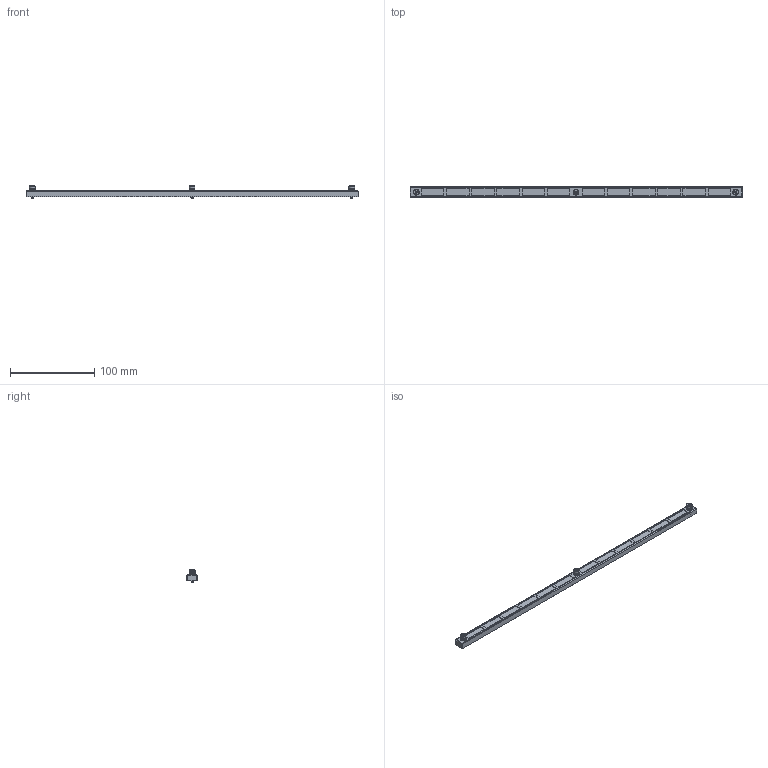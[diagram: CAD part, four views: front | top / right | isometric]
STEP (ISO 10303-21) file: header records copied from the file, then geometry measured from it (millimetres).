
FILE_DESCRIPTION((''),'2;1');
FILE_NAME('123400001975A_AIR-FILTER-BRK-01_ASM','2019-06-19T',('george_hsu'),(''),'PRO/ENGINEER BY PARAMETRIC TECHNOLOGY CORPORATION, 2012480','PRO/ENGINEER BY PARAMETRIC TECHNOLOGY CORPORATION, 2012480','');
FILE_SCHEMA(('AUTOMOTIVE_DESIGN { 1 0 10303 214 1 1 1 1 }'));
Length unit declared in the file: millimetre
Products named in the file (7): AIR-FILTER-BRACKET-01; SCREW-0133; SLEEVE; SPRING-P; 05-TB-0133-E-PRESS_ASM; AIR-FILTER-C1-01; 123400001975A_AIR-FILTER-BRK-01_ASM
Assembly tree (8 placements, depth 3):
  123400001975A_AIR-FILTER-BRK-01_ASM
    AIR-FILTER-BRACKET-01
    05-TB-0133-E-PRESS_ASM  x3
      SCREW-0133
      SLEEVE
      SPRING-P
    AIR-FILTER-C1-01
Bounding box: 395 x 12 x 15.2 mm (x, y, z)
Volume: 29175.2 mm3; surface area: 29438.6 mm2
Topology: 12 solids, 12 shells, 897 faces, 2512 edges, 1657 vertices
Faces by surface type: plane 532, cylinder 293, bspline 48, cone 24
Entity records: 18259 total; most frequent: CARTESIAN_POINT 6201, ORIENTED_EDGE 2040, DIRECTION 1878, EDGE_CURVE 1020, VECTOR 762, LINE 762, VERTEX_POINT 667, PRESENTATION_STYLE_ASSIGNMENT 649
